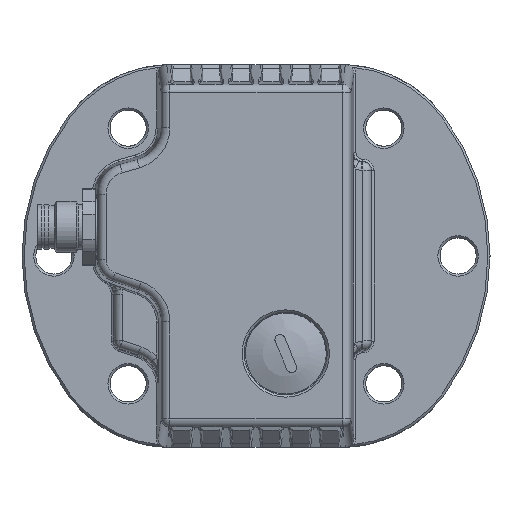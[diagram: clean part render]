
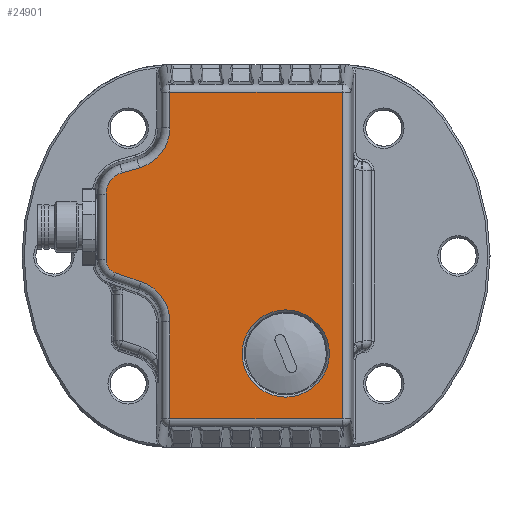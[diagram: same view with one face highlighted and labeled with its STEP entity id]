
A CAD part, top view. The second image highlights one B-rep face of the part: STEP entity #24901.
In plain terms, the highlighted planar face has unit normal (0, 0, 1).
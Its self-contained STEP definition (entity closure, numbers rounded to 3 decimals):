
#401=PLANE('',#26684);
#1136=CIRCLE('',#25796,10.25);
#1217=CIRCLE('',#26015,9.965);
#1225=CIRCLE('',#26027,3.249);
#1233=CIRCLE('',#26039,5.249);
#1241=CIRCLE('',#26051,9.803);
#2138=LINE('',#36943,#3811);
#2142=LINE('',#36962,#3815);
#2152=LINE('',#36976,#3825);
#2153=LINE('',#36992,#3826);
#2156=LINE('',#36999,#3829);
#2167=LINE('',#37025,#3840);
#2170=LINE('',#37032,#3843);
#2172=LINE('',#37046,#3845);
#3811=VECTOR('',#28647,1000.);
#3815=VECTOR('',#28671,1000.);
#3825=VECTOR('',#28685,1000.);
#3826=VECTOR('',#28706,1000.);
#3829=VECTOR('',#28713,1000.);
#3840=VECTOR('',#28744,1000.);
#3843=VECTOR('',#28751,1000.);
#3845=VECTOR('',#28771,1000.);
#7637=ORIENTED_EDGE('',*,*,#11637,.F.);
#7638=ORIENTED_EDGE('',*,*,#11631,.F.);
#7639=ORIENTED_EDGE('',*,*,#11642,.F.);
#7640=ORIENTED_EDGE('',*,*,#11661,.F.);
#7641=ORIENTED_EDGE('',*,*,#11683,.F.);
#7642=ORIENTED_EDGE('',*,*,#11695,.F.);
#7643=ORIENTED_EDGE('',*,*,#11693,.F.);
#7644=ORIENTED_EDGE('',*,*,#11687,.F.);
#7645=ORIENTED_EDGE('',*,*,#11671,.T.);
#7646=ORIENTED_EDGE('',*,*,#11665,.F.);
#7647=ORIENTED_EDGE('',*,*,#11659,.T.);
#7648=ORIENTED_EDGE('',*,*,#11653,.F.);
#7649=ORIENTED_EDGE('',*,*,#11268,.T.);
#11268=EDGE_CURVE('',#14136,#14136,#1136,.T.);
#11631=EDGE_CURVE('',#14387,#14384,#2138,.T.);
#11637=EDGE_CURVE('',#14384,#14389,#1217,.T.);
#11642=EDGE_CURVE('',#14392,#14387,#2142,.T.);
#11653=EDGE_CURVE('',#14389,#14393,#2152,.T.);
#11659=EDGE_CURVE('',#14396,#14393,#1225,.T.);
#11661=EDGE_CURVE('',#14399,#14392,#2153,.T.);
#11665=EDGE_CURVE('',#14396,#14400,#2156,.T.);
#11671=EDGE_CURVE('',#14403,#14400,#1233,.T.);
#11683=EDGE_CURVE('',#14406,#14399,#2167,.T.);
#11687=EDGE_CURVE('',#14403,#14407,#2170,.T.);
#11693=EDGE_CURVE('',#14407,#14410,#1241,.T.);
#11695=EDGE_CURVE('',#14410,#14406,#2172,.T.);
#14136=VERTEX_POINT('',#34305);
#14384=VERTEX_POINT('',#36937);
#14387=VERTEX_POINT('',#36942);
#14389=VERTEX_POINT('',#36951);
#14392=VERTEX_POINT('',#36961);
#14393=VERTEX_POINT('',#36973);
#14396=VERTEX_POINT('',#36984);
#14399=VERTEX_POINT('',#36991);
#14400=VERTEX_POINT('',#36996);
#14403=VERTEX_POINT('',#37007);
#14406=VERTEX_POINT('',#37024);
#14407=VERTEX_POINT('',#37029);
#14410=VERTEX_POINT('',#37040);
#16631=EDGE_LOOP('',(#7637,#7638,#7639,#7640,#7641,#7642,#7643,#7644,#7645,
#7646,#7647,#7648));
#16632=EDGE_LOOP('',(#7649));
#18105=FACE_BOUND('',#16631,.T.);
#18106=FACE_BOUND('',#16632,.T.);
#24901=ADVANCED_FACE('',(#18105,#18106),#401,.T.);
#25796=AXIS2_PLACEMENT_3D('',#34304,#28120,#28121);
#26015=AXIS2_PLACEMENT_3D('',#36954,#28662,#28663);
#26027=AXIS2_PLACEMENT_3D('',#36987,#28700,#28701);
#26039=AXIS2_PLACEMENT_3D('',#37010,#28728,#28729);
#26051=AXIS2_PLACEMENT_3D('',#37043,#28766,#28767);
#26684=AXIS2_PLACEMENT_3D('',#39564,#30367,#30368);
#28120=DIRECTION('',(0.,0.,-1.));
#28121=DIRECTION('',(0.,1.,0.));
#28647=DIRECTION('',(0.,1.,0.));
#28662=DIRECTION('',(0.,0.,1.));
#28663=DIRECTION('',(1.,0.,0.));
#28671=DIRECTION('',(-1.,0.,0.));
#28685=DIRECTION('',(-0.946,0.326,0.));
#28700=DIRECTION('',(0.,0.,1.));
#28701=DIRECTION('',(1.,0.,0.));
#28706=DIRECTION('',(0.,-1.,0.));
#28713=DIRECTION('',(0.,1.,0.));
#28728=DIRECTION('',(0.,0.,1.));
#28729=DIRECTION('',(1.,0.,0.));
#28744=DIRECTION('',(1.,0.,0.));
#28751=DIRECTION('',(0.963,0.27,0.));
#28766=DIRECTION('',(0.,0.,1.));
#28767=DIRECTION('',(1.,0.,0.));
#28771=DIRECTION('',(0.,1.,0.));
#30367=DIRECTION('',(0.,0.,1.));
#30368=DIRECTION('',(1.,0.,0.));
#34304=CARTESIAN_POINT('',(7.,-23.,52.));
#34305=CARTESIAN_POINT('',(7.,-12.75,52.));
#36937=CARTESIAN_POINT('',(-20.249,-15.57,52.));
#36942=CARTESIAN_POINT('',(-20.249,-38.356,52.));
#36943=CARTESIAN_POINT('',(-20.249,-38.149,52.));
#36951=CARTESIAN_POINT('',(-26.97,-6.148,52.));
#36954=CARTESIAN_POINT('',(-30.215,-15.57,52.));
#36961=CARTESIAN_POINT('',(20.249,-38.356,52.));
#36962=CARTESIAN_POINT('',(20.218,-38.356,52.));
#36973=CARTESIAN_POINT('',(-33.058,-4.052,52.));
#36976=CARTESIAN_POINT('',(-26.97,-6.148,52.));
#36984=CARTESIAN_POINT('',(-35.249,-0.98,52.));
#36987=CARTESIAN_POINT('',(-32.,-0.98,52.));
#36991=CARTESIAN_POINT('',(20.249,38.356,52.));
#36992=CARTESIAN_POINT('',(20.249,38.149,52.));
#36996=CARTESIAN_POINT('',(-35.249,14.434,52.));
#36999=CARTESIAN_POINT('',(-35.249,-0.98,52.));
#37007=CARTESIAN_POINT('',(-31.417,19.489,52.));
#37010=CARTESIAN_POINT('',(-30.,14.434,52.));
#37024=CARTESIAN_POINT('',(-20.249,38.356,52.));
#37025=CARTESIAN_POINT('',(-20.218,38.356,52.));
#37029=CARTESIAN_POINT('',(-27.406,20.613,52.));
#37032=CARTESIAN_POINT('',(-31.417,19.489,52.));
#37040=CARTESIAN_POINT('',(-20.249,30.052,52.));
#37043=CARTESIAN_POINT('',(-30.052,30.052,52.));
#37046=CARTESIAN_POINT('',(-20.249,30.052,52.));
#39564=CARTESIAN_POINT('',(25.,-20.,52.));
